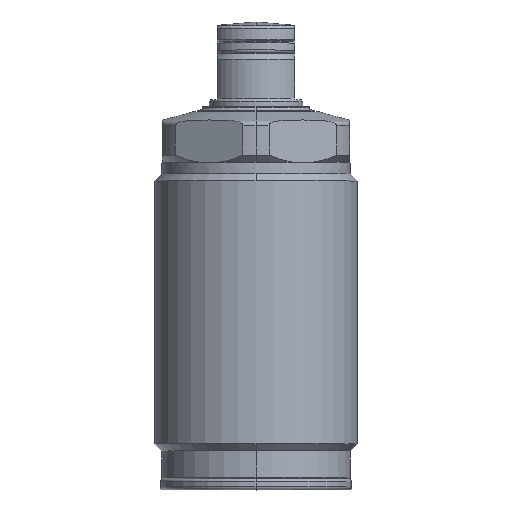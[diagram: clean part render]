
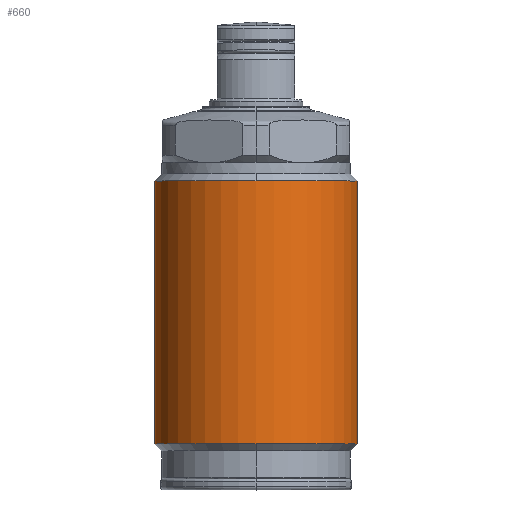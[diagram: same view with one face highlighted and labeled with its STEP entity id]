
A CAD part, top view. The second image highlights one B-rep face of the part: STEP entity #660.
In plain terms, the highlighted cylindrical face has radius 13 mm (diameter 26 mm), a full revolution.
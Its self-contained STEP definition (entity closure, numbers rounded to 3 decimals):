
#320=FACE_BOUND('',#1046,.T.);
#321=FACE_BOUND('',#1047,.T.);
#362=CYLINDRICAL_SURFACE('',#2967,13.);
#424=LINE('',#4603,#524);
#425=LINE('',#4606,#525);
#426=LINE('',#4608,#526);
#427=LINE('',#4613,#527);
#524=VECTOR('',#3576,1.);
#525=VECTOR('',#3579,1.);
#526=VECTOR('',#3580,1.);
#527=VECTOR('',#3583,1.);
#660=ADVANCED_FACE('',(#320,#321),#362,.T.);
#1046=EDGE_LOOP('',(#1453,#1454,#1455,#1456,#1457,#1458));
#1047=EDGE_LOOP('',(#1459,#1460,#1461,#1462,#1463,#1464));
#1453=ORIENTED_EDGE('',*,*,#2324,.T.);
#1454=ORIENTED_EDGE('',*,*,#2325,.T.);
#1455=ORIENTED_EDGE('',*,*,#2325,.F.);
#1456=ORIENTED_EDGE('',*,*,#2326,.T.);
#1457=ORIENTED_EDGE('',*,*,#2327,.T.);
#1458=ORIENTED_EDGE('',*,*,#2327,.F.);
#1459=ORIENTED_EDGE('',*,*,#2328,.T.);
#1460=ORIENTED_EDGE('',*,*,#2329,.T.);
#1461=ORIENTED_EDGE('',*,*,#2330,.F.);
#1462=ORIENTED_EDGE('',*,*,#2330,.T.);
#1463=ORIENTED_EDGE('',*,*,#2331,.T.);
#1464=ORIENTED_EDGE('',*,*,#2328,.F.);
#2030=VERTEX_POINT('',#4601);
#2031=VERTEX_POINT('',#4602);
#2032=VERTEX_POINT('',#4604);
#2033=VERTEX_POINT('',#4607);
#2034=VERTEX_POINT('',#4609);
#2035=VERTEX_POINT('',#4610);
#2036=VERTEX_POINT('',#4612);
#2037=VERTEX_POINT('',#4614);
#2324=EDGE_CURVE('',#2030,#2031,#2667,.T.);
#2325=EDGE_CURVE('',#2031,#2032,#424,.T.);
#2326=EDGE_CURVE('',#2031,#2030,#2668,.T.);
#2327=EDGE_CURVE('',#2030,#2033,#425,.T.);
#2328=EDGE_CURVE('',#2034,#2035,#426,.T.);
#2329=EDGE_CURVE('',#2035,#2036,#2669,.T.);
#2330=EDGE_CURVE('',#2037,#2036,#427,.T.);
#2331=EDGE_CURVE('',#2036,#2035,#2670,.T.);
#2667=CIRCLE('',#2963,13.);
#2668=CIRCLE('',#2964,13.);
#2669=CIRCLE('',#2965,13.);
#2670=CIRCLE('',#2966,13.);
#2963=AXIS2_PLACEMENT_3D('',#4600,#3574,#3575);
#2964=AXIS2_PLACEMENT_3D('',#4605,#3577,#3578);
#2965=AXIS2_PLACEMENT_3D('',#4611,#3581,#3582);
#2966=AXIS2_PLACEMENT_3D('',#4615,#3584,#3585);
#2967=AXIS2_PLACEMENT_3D('',#4616,#3586,#3587);
#3574=DIRECTION('',(0.,1.,0.));
#3575=DIRECTION('',(0.,0.,1.));
#3576=DIRECTION('',(0.,1.,0.));
#3577=DIRECTION('',(0.,1.,0.));
#3578=DIRECTION('',(0.,0.,1.));
#3579=DIRECTION('',(0.,1.,0.));
#3580=DIRECTION('',(0.,1.,0.));
#3581=DIRECTION('',(0.,-1.,0.));
#3582=DIRECTION('',(0.,0.,1.));
#3583=DIRECTION('',(0.,1.,0.));
#3584=DIRECTION('',(0.,-1.,0.));
#3585=DIRECTION('',(0.,0.,1.));
#3586=DIRECTION('',(0.,1.,0.));
#3587=DIRECTION('',(0.,0.,1.));
#4600=CARTESIAN_POINT('',(0.,4.6,0.));
#4601=CARTESIAN_POINT('',(0.,4.6,13.));
#4602=CARTESIAN_POINT('',(0.,4.6,-13.));
#4603=CARTESIAN_POINT('',(0.,40.8,-13.));
#4604=CARTESIAN_POINT('',(0.,30.3,-13.));
#4605=CARTESIAN_POINT('',(0.,4.6,0.));
#4606=CARTESIAN_POINT('',(0.,40.8,13.));
#4607=CARTESIAN_POINT('',(0.,30.3,13.));
#4608=CARTESIAN_POINT('',(0.,40.8,13.));
#4609=CARTESIAN_POINT('',(0.,36.3,13.));
#4610=CARTESIAN_POINT('',(0.,38.3,13.));
#4611=CARTESIAN_POINT('',(0.,38.3,0.));
#4612=CARTESIAN_POINT('',(0.,38.3,-13.));
#4613=CARTESIAN_POINT('',(0.,40.8,-13.));
#4614=CARTESIAN_POINT('',(0.,36.3,-13.));
#4615=CARTESIAN_POINT('',(0.,38.3,0.));
#4616=CARTESIAN_POINT('',(0.,40.8,0.));
